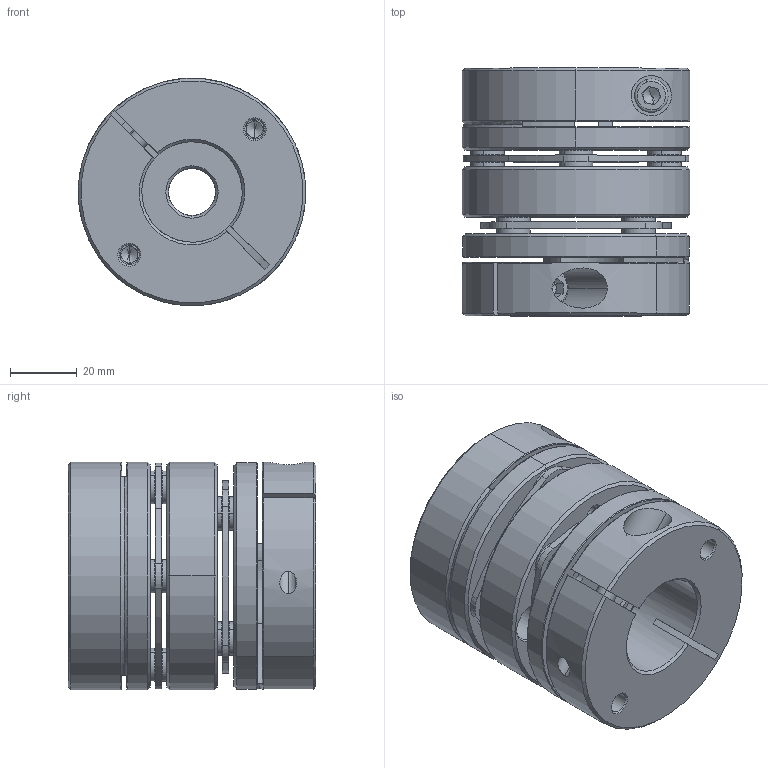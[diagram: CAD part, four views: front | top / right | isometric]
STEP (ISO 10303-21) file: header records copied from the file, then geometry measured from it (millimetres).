
FILE_DESCRIPTION (( 'STEP AP203' ), '1' );
FILE_NAME ('LD2-D68-14-30.STEP', '2021-10-26T08:16:07', ( '' ), ( '' ), 'SwSTEP 2.0', 'SolidWorks 2018', '' );
FILE_SCHEMA (( 'CONFIG_CONTROL_DESIGN' ));
Length unit declared in the file: millimetre
Products named in the file (2): 錨璃102^LD2-D68; LD2-D68-14-30
Assembly tree (1 placements, depth 2):
  LD2-D68-14-30
    錨璃102^LD2-D68
Bounding box: 68 x 74 x 68 mm (x, y, z)
Volume: 184419.1 mm3; surface area: 64104.6 mm2
Topology: 1 solids, 27 shells, 734 faces, 1712 edges, 1042 vertices
Faces by surface type: cylinder 256, cone 226, plane 222, torus 30
Entity records: 21554 total; most frequent: DIRECTION 4004, CARTESIAN_POINT 3937, ORIENTED_EDGE 3376, EDGE_CURVE 1688, AXIS2_PLACEMENT_3D 1625, VERTEX_POINT 1042, CIRCLE 887, EDGE_LOOP 870
